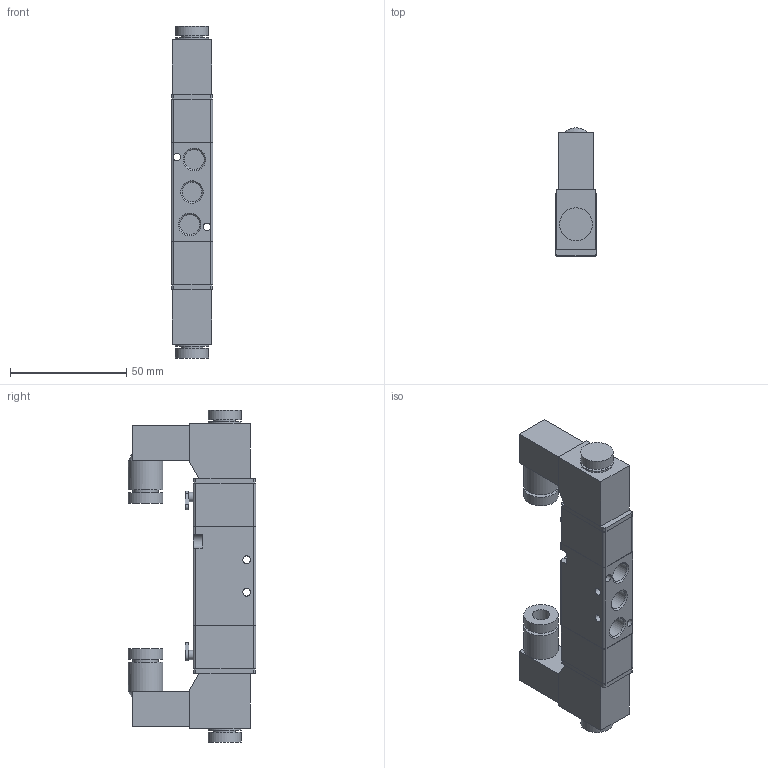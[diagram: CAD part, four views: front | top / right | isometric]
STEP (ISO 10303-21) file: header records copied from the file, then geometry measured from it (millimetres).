
FILE_DESCRIPTION( ( 'STEP AP214' ), '1' );
FILE_NAME( 'C:/Users/emc02044/Desktop/RV五通/RV5212-06E7.stp', '2026-07-31T06:51:47', ( 'License CC BY-ND 4.0' ), ( 'CADENAS' ), ' ', 'PARTsolutions', ' ' );
FILE_SCHEMA( ( 'AUTOMOTIVE_DESIGN { 1 0 10303 214 1 1 1 1 }' ) );
Length unit declared in the file: millimetre
Products named in the file (1): _RV5212-06E7
Bounding box: 18 x 55 x 142.8 mm (x, y, z)
Volume: 75403.4 mm3; surface area: 21579 mm2
Topology: 1 solids, 1 shells, 141 faces, 330 edges, 218 vertices
Faces by surface type: plane 81, cylinder 53, cone 7
Full cylindrical faces by diameter (mm): 3.3 x4, 4 x2, 7.5 x2, 8.566 x5, 9.2 x2, 10.8 x2, 14.2 x4, 15 x4
Entity records: 5048 total; most frequent: CARTESIAN_POINT 706, DIRECTION 686, ORIENTED_EDGE 586, EDGE_CURVE 293, AXIS2_PLACEMENT_3D 255, VERTEX_POINT 211, EDGE_LOOP 206, LINE 176
